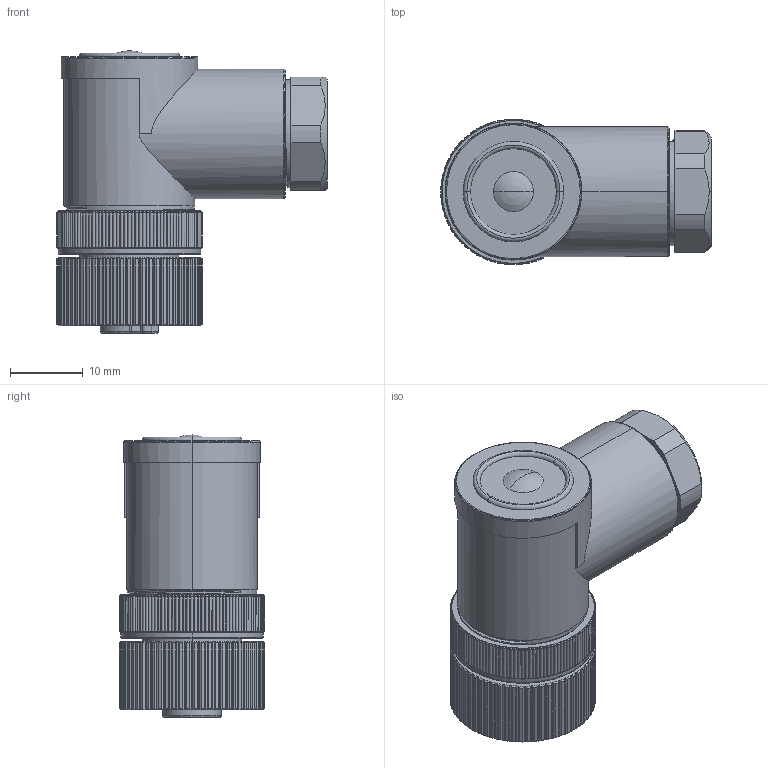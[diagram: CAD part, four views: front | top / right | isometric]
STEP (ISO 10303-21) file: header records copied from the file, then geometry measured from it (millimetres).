
FILE_DESCRIPTION((''),'2;1');
FILE_NAME('XC-M12-RWK-PG9','2025-06-21T15:40:00',('lyj'),(''),'CREO PARAMETRIC BY PTC INC, 2019010','CREO PARAMETRIC BY PTC INC, 2019010','');
FILE_SCHEMA(('CONFIG_CONTROL_DESIGN'));
Length unit declared in the file: millimetre
Products named in the file (1): XC-M12-RWK-PG9
Bounding box: 37.2 x 20 x 38.8 mm (x, y, z)
Volume: 9792.4 mm3; surface area: 12423.5 mm2
Topology: 1 solids, 12 shells, 1698 faces, 4572 edges, 2947 vertices
Faces by surface type: cylinder 663, plane 451, cone 442, bspline 60, torus 49, extrusion 29, sphere 4
Entity records: 85743 total; most frequent: CARTESIAN_POINT 44896, ORIENTED_EDGE 9136, DIRECTION 7848, EDGE_CURVE 4568, AXIS2_PLACEMENT_3D 3149, VERTEX_POINT 2947, EDGE_LOOP 1795, FACE_OUTER_BOUND 1698
